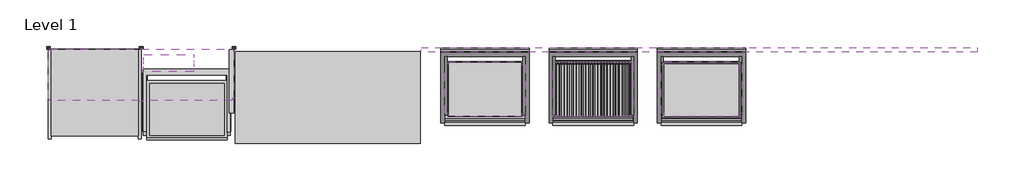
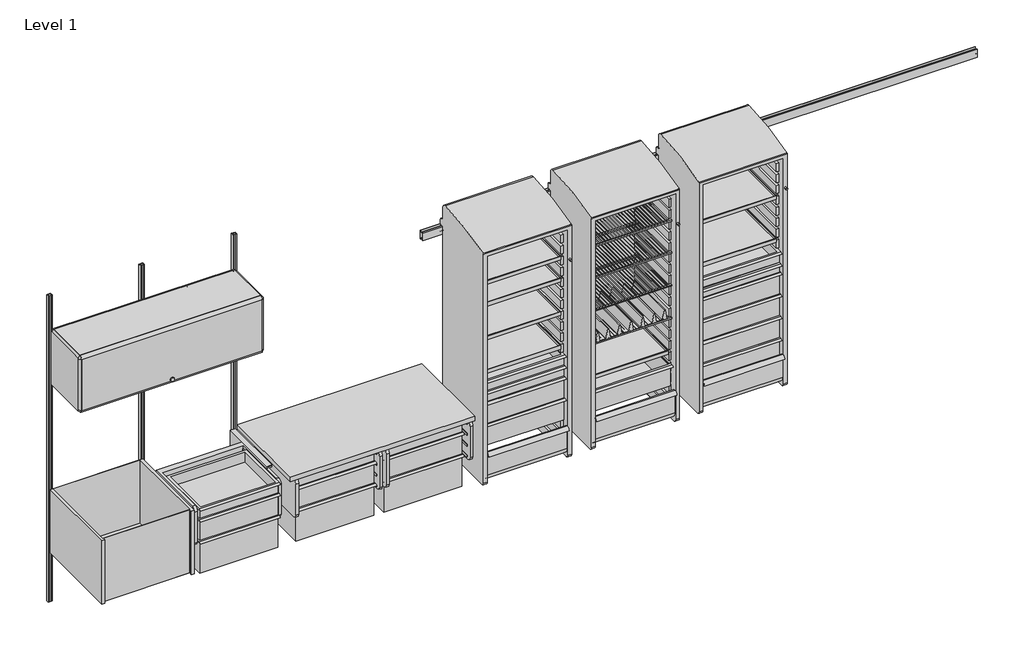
# One storey, incomplete: 46 furniture elements, 1 light fixture.
"""IFC4 building model written with IfcOpenShell, lengths in millimetres."""

from ifc_helpers import new_model, si_unit, origin, place, context, project, spatial, transform, mapped, element, save
from components import furniture_96cbcaf7, furniture_f7d7e143, furniture_a25c7143, furniture_16c4bec0, furniture_ac9ddba1, furniture_27da73ad, furniture_f6e26599, furniture_6a9bea8c, furniture_0eaea0f9, furniture_83f72333, furniture_955c4189, furniture_14b667b5, furniture_1979b876, furniture_60ab3520, furniture_66465d9f, furniture_2bbb03d3, furniture_ea425779, a_3_c1a7feba, a_3_2d132fd5, a_3_34f6b35d, a_3_9c7b58b7, a_3_f6285bb9, b_6_334becb9, b_6_49bc5308, b_6_eadec2fb, b_6_fe23bc84, b_6_f31ca194, b_6_3d1a9f76, b_6_e21043c8, c_9_16105775, c_9_c2c7ca91, lam_24d_48w_f610a9d3, standard_144w_a9847ba4, light_fixture_c49e82c0

model = new_model("IFC4")

# Units and contexts
model_context = context("Model", 3, world=origin())
ifc_project = project(units=[si_unit("LENGTHUNIT", "METRE", prefix="MILLI")], contexts=[model_context])

# Site, building, storey
site = spatial("IfcSite", under=ifc_project)
building = spatial("IfcBuilding", under=site)
storey = spatial("IfcBuildingStorey", under=building, Name="Level 1", Elevation=0.0)

# Furniture
placement = place(None, origin())
furniture_shape = furniture_96cbcaf7(model_context)
element("IfcFurniture", 1, ObjectType="HermanMiller_ActionOffice_A3352_B-StyleFlipperDoorUnit : 15 1/2\"H x 13\"D x 48\"W", at=placement, inside=storey, context=model_context, shape_type="MappedRepresentation", body=[
    mapped(furniture_shape, transform((609.6, -200.025, 0.0), x_axis=(1.0, 0.0, 0.0), y_axis=(0.0, 1.0, 0.0), z_axis=(0.0, 0.0, 1.0))),
])
furniture_2_shape = furniture_f7d7e143(model_context)
element("IfcFurniture", 2, ObjectType="HermanMiller_CoStruc_CO205_CFrame : 10\"H x 17\"D x 22\"W", at=placement, inside=storey, context=model_context, shape_type="MappedRepresentation", body=[
    mapped(furniture_2_shape, transform((814.1511551, -230.7049397, 0.0), x_axis=(1.0, 0.0, 0.0), y_axis=(0.0, 1.0, 0.0), z_axis=(0.0, 0.0, 1.0))),
])
element("IfcFurniture", 3, ObjectType="HermanMiller_CoStruc_CO205_CFrame : 10\"H x 17\"D x 22\"W", at=placement, inside=storey, context=model_context, shape_type="MappedRepresentation", body=[
    mapped(furniture_2_shape, transform((1454.0889151, -281.4338197, 0.0), x_axis=(1.0, 0.0, 0.0), y_axis=(0.0, 1.0, 0.0), z_axis=(0.0, 0.0, 1.0))),
])
element("IfcFurniture", 4, ObjectType="HermanMiller_CoStruc_CO205_CFrame : 10\"H x 17\"D x 22\"W", at=placement, inside=storey, context=model_context, shape_type="MappedRepresentation", body=[
    mapped(furniture_2_shape, transform((2050.5393351, -281.4338197, 0.0), x_axis=(1.0, 0.0, 0.0), y_axis=(0.0, 1.0, 0.0), z_axis=(0.0, 0.0, 1.0))),
])
furniture_3_shape = furniture_a25c7143(model_context)
element("IfcFurniture", 5, ObjectType="HermanMiller_CoStruc_CO266_GripperPackage : 15\"D x 22-1/2\"W", at=placement, inside=storey, context=model_context, shape_type="MappedRepresentation", body=[
    mapped(furniture_3_shape, transform((909.2692, -174.70882, 0.0), x_axis=(1.0, 0.0, 0.0), y_axis=(0.0, 1.0, 0.0), z_axis=(0.0, 0.0, 1.0))),
])
furniture_4_shape = furniture_16c4bec0(model_context)
element("IfcFurniture", 6, ObjectType="HermanMiller_CoStruc_CO203_CTrayShelf : 14\"D x 20\"W", at=placement, inside=storey, context=model_context, shape_type="MappedRepresentation", body=[
    mapped(furniture_4_shape, transform((2869.41006, -280.86558, 0.0), x_axis=(1.0, 0.0, 0.0), y_axis=(0.0, 1.0, 0.0), z_axis=(0.0, 0.0, 1.0))),
])
furniture_5_shape = furniture_ac9ddba1(model_context)
element("IfcFurniture", 7, ObjectType="HermanMiller_CoStruc_CO561_LockerWithTambourDoor : 66\"H x 20\"D x 22\"W Wlock", at=placement, inside=storey, context=model_context, shape_type="MappedRepresentation", body=[
    mapped(furniture_5_shape, transform((2869.35164, -257.78206, 0.0), x_axis=(1.0, 0.0, 0.0), y_axis=(0.0, 1.0, 0.0), z_axis=(0.0, 0.0, 1.0))),
])
element("IfcFurniture", 8, ObjectType="HermanMiller_CoStruc_CO561_LockerWithTambourDoor : 66\"H x 20\"D x 22\"W Wlock", at=placement, inside=storey, context=model_context, shape_type="MappedRepresentation", body=[
    mapped(furniture_5_shape, transform((3580.55164, -257.78206, 0.0), x_axis=(1.0, 0.0, 0.0), y_axis=(0.0, 1.0, 0.0), z_axis=(0.0, 0.0, 1.0))),
])
element("IfcFurniture", 9, ObjectType="HermanMiller_CoStruc_CO561_LockerWithTambourDoor : 66\"H x 20\"D x 22\"W Wlock", at=placement, inside=storey, context=model_context, shape_type="MappedRepresentation", body=[
    mapped(furniture_5_shape, transform((4291.75164, -257.78206, 0.0), x_axis=(1.0, 0.0, 0.0), y_axis=(0.0, 1.0, 0.0), z_axis=(0.0, 0.0, 1.0))),
])
furniture_6_shape = furniture_27da73ad(model_context)
element("IfcFurniture", 10, ObjectType="HermanMiller_CoStruc_CO242_Subdivider Vane : 2 5/8\"Hx13 3/4\"D x 18 1/2\"W", at=placement, inside=storey, context=model_context, shape_type="MappedRepresentation", body=[
    mapped(furniture_6_shape, transform((3577.1391117, -290.00958, 0.0), x_axis=(1.0, 0.0, 0.0), y_axis=(0.0, 1.0, 0.0), z_axis=(0.0, 0.0, 1.0))),
])
furniture_7_shape = furniture_f6e26599(model_context)
element("IfcFurniture", 11, ObjectType="HermanMiller_CoStruc_CO203_CTrayShelf : 14\"D x 20\"W", at=placement, inside=storey, context=model_context, shape_type="MappedRepresentation", body=[
    mapped(furniture_7_shape, transform((2869.41006, -280.86558, 0.0), x_axis=(1.0, 0.0, 0.0), y_axis=(0.0, 1.0, 0.0), z_axis=(0.0, 0.0, 1.0))),
])
furniture_8_shape = furniture_6a9bea8c(model_context)
element("IfcFurniture", 12, ObjectType="HermanMiller_CoStruc_CO203_CTrayShelf : 14\"D x 20\"W", at=placement, inside=storey, context=model_context, shape_type="MappedRepresentation", body=[
    mapped(furniture_8_shape, transform((2869.41006, -280.86558, 0.0), x_axis=(1.0, 0.0, 0.0), y_axis=(0.0, 1.0, 0.0), z_axis=(0.0, 0.0, 1.0))),
])
furniture_9_shape = furniture_0eaea0f9(model_context)
element("IfcFurniture", 13, ObjectType="HermanMiller_CoStruc_CO203_CTrayShelf : 14\"D x 20\"W", at=placement, inside=storey, context=model_context, shape_type="MappedRepresentation", body=[
    mapped(furniture_9_shape, transform((2869.41006, -280.86558, 0.0), x_axis=(1.0, 0.0, 0.0), y_axis=(0.0, 1.0, 0.0), z_axis=(0.0, 0.0, 1.0))),
])
furniture_10_shape = furniture_83f72333(model_context)
element("IfcFurniture", 14, ObjectType="HermanMiller_CoStruc_CO203_CTrayShelf : 14\"D x 20\"W", at=placement, inside=storey, context=model_context, shape_type="MappedRepresentation", body=[
    mapped(furniture_10_shape, transform((3578.79396, -279.27808, 0.0), x_axis=(-1.0, 0.0, 0.0), y_axis=(0.0, -1.0, 0.0), z_axis=(0.0, 0.0, 1.0))),
])
furniture_11_shape = furniture_955c4189(model_context)
element("IfcFurniture", 15, ObjectType="HermanMiller_CoStruc_CO252_CWireShelf : 14D x 20W", at=placement, inside=storey, context=model_context, shape_type="MappedRepresentation", body=[
    mapped(furniture_11_shape, transform((3580.61006, -280.86558, 0.0), x_axis=(1.0, 0.0, 0.0), y_axis=(0.0, 1.0, 0.0), z_axis=(0.0, 0.0, 1.0))),
])
furniture_12_shape = furniture_14b667b5(model_context)
element("IfcFurniture", 16, ObjectType="HermanMiller_CoStruc_CO252_CWireShelf : 14D x 20W", at=placement, inside=storey, context=model_context, shape_type="MappedRepresentation", body=[
    mapped(furniture_12_shape, transform((3580.61006, -280.86558, 0.0), x_axis=(1.0, 0.0, 0.0), y_axis=(0.0, 1.0, 0.0), z_axis=(0.0, 0.0, 1.0))),
])
element("IfcFurniture", 17, ObjectType="HermanMiller_CoStruc_CO252_CWireShelf : 14D x 20W", at=placement, inside=storey, context=model_context, shape_type="MappedRepresentation", body=[
    mapped(furniture_12_shape, transform((3580.61006, -280.86558, 228.6), x_axis=(1.0, 0.0, 0.0), y_axis=(0.0, 1.0, 0.0), z_axis=(0.0, 0.0, 1.0))),
])
furniture_13_shape = furniture_1979b876(model_context)
element("IfcFurniture", 18, ObjectType="HermanMiller_CoStruc_CO252_CWireShelf : 14D x 20W", at=placement, inside=storey, context=model_context, shape_type="MappedRepresentation", body=[
    mapped(furniture_13_shape, transform((3580.61006, -280.86558, 0.0), x_axis=(1.0, 0.0, 0.0), y_axis=(0.0, 1.0, 0.0), z_axis=(0.0, 0.0, 1.0))),
])
furniture_14_shape = furniture_60ab3520(model_context)
element("IfcFurniture", 19, ObjectType="HermanMiller_CoStruc_CO203_CTrayShelf : 14\"D x 20\"W", at=placement, inside=storey, context=model_context, shape_type="MappedRepresentation", body=[
    mapped(furniture_14_shape, transform((4291.81006, -280.86558, 0.0), x_axis=(1.0, 0.0, 0.0), y_axis=(0.0, 1.0, 0.0), z_axis=(0.0, 0.0, 1.0))),
])
furniture_15_shape = furniture_66465d9f(model_context)
element("IfcFurniture", 20, ObjectType="HermanMiller_CoStruc_CO203_CTrayShelf : 14\"D x 20\"W", at=placement, inside=storey, context=model_context, shape_type="MappedRepresentation", body=[
    mapped(furniture_15_shape, transform((4291.81006, -280.86558, 0.0), x_axis=(1.0, 0.0, 0.0), y_axis=(0.0, 1.0, 0.0), z_axis=(0.0, 0.0, 1.0))),
])
furniture_16_shape = furniture_2bbb03d3(model_context)
element("IfcFurniture", 21, ObjectType="HermanMiller_CoStruc_C2513_SinkUnitForStorage : 19\"H x 24\"D x 48\"W", at=placement, inside=storey, context=model_context, shape_type="MappedRepresentation", body=[
    mapped(furniture_16_shape, transform((304.8, -187.325, 0.0), x_axis=(1.0, 0.0, 0.0), y_axis=(0.0, 1.0, 0.0), z_axis=(0.0, 0.0, 1.0))),
])
furniture_17_shape = furniture_ea425779(model_context)
element("IfcFurniture", 22, ObjectType="HermanMiller_ActionOffice_AO213_WallStrip : 84\"H", at=placement, inside=storey, context=model_context, shape_type="MappedRepresentation", body=[
    mapped(furniture_17_shape, transform((609.6, 0.0, 0.0), x_axis=(1.0, 0.0, 0.0), y_axis=(0.0, 1.0, 0.0), z_axis=(0.0, 0.0, 1.0))),
])
element("IfcFurniture", 23, ObjectType="HermanMiller_ActionOffice_AO213_WallStrip : 84\"H", at=placement, inside=storey, context=model_context, shape_type="MappedRepresentation", body=[
    mapped(furniture_17_shape, transform((1219.2, 0.0, 0.0), x_axis=(1.0, 0.0, 0.0), y_axis=(0.0, 1.0, 0.0), z_axis=(0.0, 0.0, 1.0))),
])
element("IfcFurniture", 24, ObjectType="HermanMiller_ActionOffice_AO213_WallStrip : 84\"H", at=placement, inside=storey, context=model_context, shape_type="MappedRepresentation", body=[
    mapped(furniture_17_shape, transform((0.0, 0.0, 0.0), x_axis=(1.0, 0.0, 0.0), y_axis=(0.0, 1.0, 0.0), z_axis=(0.0, 0.0, 1.0))),
])
a_3_shape = a_3_c1a7feba(model_context)
element("IfcFurniture", 25, ObjectType="HermanMiller_CoStruc_CO207_Drawer : A - 3", at=placement, inside=storey, context=model_context, shape_type="MappedRepresentation", body=[
    mapped(a_3_shape, transform((2123.7333317, -419.20922, 0.0), x_axis=(1.0, 0.0, 0.0), y_axis=(0.0, 1.0, 0.0), z_axis=(0.0, 0.0, 1.0))),
])
element("IfcFurniture", 26, ObjectType="HermanMiller_CoStruc_CO207_Drawer : A - 3", at=placement, inside=storey, context=model_context, shape_type="MappedRepresentation", body=[
    mapped(a_3_shape, transform((1545.8833317, -419.20922, 0.0), x_axis=(1.0, 0.0, 0.0), y_axis=(0.0, 1.0, 0.0), z_axis=(0.0, 0.0, 1.0))),
])
element("IfcFurniture", 27, ObjectType="HermanMiller_CoStruc_CO207_Drawer : A - 3", at=placement, inside=storey, context=model_context, shape_type="MappedRepresentation", body=[
    mapped(a_3_shape, transform((910.7893517, -419.20922, 0.0), x_axis=(1.0, 0.0, 0.0), y_axis=(0.0, 1.0, 0.0), z_axis=(0.0, 0.0, 1.0))),
])
a_3_2_shape = a_3_2d132fd5(model_context)
element("IfcFurniture", 28, ObjectType="HermanMiller_CoStruc_CO207_Drawer : A - 3", at=placement, inside=storey, context=model_context, shape_type="MappedRepresentation", body=[
    mapped(a_3_2_shape, transform((2869.3427117, -293.56558, 0.0), x_axis=(1.0, 0.0, 0.0), y_axis=(0.0, 1.0, 0.0), z_axis=(0.0, 0.0, 1.0))),
])
a_3_3_shape = a_3_34f6b35d(model_context)
element("IfcFurniture", 29, ObjectType="HermanMiller_CoStruc_CO207_Drawer : A - 3", at=placement, inside=storey, context=model_context, shape_type="MappedRepresentation", body=[
    mapped(a_3_3_shape, transform((2869.3427117, -293.56558, 0.0), x_axis=(1.0, 0.0, 0.0), y_axis=(0.0, 1.0, 0.0), z_axis=(0.0, 0.0, 1.0))),
])
a_3_4_shape = a_3_9c7b58b7(model_context)
element("IfcFurniture", 30, ObjectType="HermanMiller_CoStruc_CO207_Drawer : A - 3", at=placement, inside=storey, context=model_context, shape_type="MappedRepresentation", body=[
    mapped(a_3_4_shape, transform((4291.7427117, -293.56558, 0.0), x_axis=(1.0, 0.0, 0.0), y_axis=(0.0, 1.0, 0.0), z_axis=(0.0, 0.0, 1.0))),
])
a_3_5_shape = a_3_f6285bb9(model_context)
element("IfcFurniture", 31, ObjectType="HermanMiller_CoStruc_CO207_Drawer : A - 3", at=placement, inside=storey, context=model_context, shape_type="MappedRepresentation", body=[
    mapped(a_3_5_shape, transform((4291.7427117, -293.56558, 0.0), x_axis=(1.0, 0.0, 0.0), y_axis=(0.0, 1.0, 0.0), z_axis=(0.0, 0.0, 1.0))),
])
b_6_shape = b_6_334becb9(model_context)
element("IfcFurniture", 32, ObjectType="HermanMiller_CoStruc_CO207_Drawer : B - 6", at=placement, inside=storey, context=model_context, shape_type="MappedRepresentation", body=[
    mapped(b_6_shape, transform((2123.7333317, -419.20922, 0.0), x_axis=(1.0, 0.0, 0.0), y_axis=(0.0, 1.0, 0.0), z_axis=(0.0, 0.0, 1.0))),
])
element("IfcFurniture", 33, ObjectType="HermanMiller_CoStruc_CO207_Drawer : B - 6", at=placement, inside=storey, context=model_context, shape_type="MappedRepresentation", body=[
    mapped(b_6_shape, transform((1545.8833317, -419.20922, 0.0), x_axis=(1.0, 0.0, 0.0), y_axis=(0.0, 1.0, 0.0), z_axis=(0.0, 0.0, 1.0))),
])
element("IfcFurniture", 34, ObjectType="HermanMiller_CoStruc_CO207_Drawer : B - 6", at=placement, inside=storey, context=model_context, shape_type="MappedRepresentation", body=[
    mapped(b_6_shape, transform((910.7893517, -419.20922, 0.0), x_axis=(1.0, 0.0, 0.0), y_axis=(0.0, 1.0, 0.0), z_axis=(0.0, 0.0, 1.0))),
])
b_6_2_shape = b_6_49bc5308(model_context)
element("IfcFurniture", 35, ObjectType="HermanMiller_CoStruc_CO207_Drawer : B - 6", at=placement, inside=storey, context=model_context, shape_type="MappedRepresentation", body=[
    mapped(b_6_2_shape, transform((2869.3427117, -293.56558, 0.0), x_axis=(1.0, 0.0, 0.0), y_axis=(0.0, 1.0, 0.0), z_axis=(0.0, 0.0, 1.0))),
])
b_6_3_shape = b_6_eadec2fb(model_context)
element("IfcFurniture", 36, ObjectType="HermanMiller_CoStruc_CO207_Drawer : B - 6", at=placement, inside=storey, context=model_context, shape_type="MappedRepresentation", body=[
    mapped(b_6_3_shape, transform((2869.3427117, -293.56558, 0.0), x_axis=(1.0, 0.0, 0.0), y_axis=(0.0, 1.0, 0.0), z_axis=(0.0, 0.0, 1.0))),
])
b_6_4_shape = b_6_fe23bc84(model_context)
element("IfcFurniture", 37, ObjectType="HermanMiller_CoStruc_CO207_Drawer : B - 6", at=placement, inside=storey, context=model_context, shape_type="MappedRepresentation", body=[
    mapped(b_6_4_shape, transform((4291.7427117, -293.56558, 0.0), x_axis=(1.0, 0.0, 0.0), y_axis=(0.0, 1.0, 0.0), z_axis=(0.0, 0.0, 1.0))),
])
b_6_5_shape = b_6_f31ca194(model_context)
element("IfcFurniture", 38, ObjectType="HermanMiller_CoStruc_CO207_Drawer : B - 6", at=placement, inside=storey, context=model_context, shape_type="MappedRepresentation", body=[
    mapped(b_6_5_shape, transform((4291.7427117, -293.56558, 0.0), x_axis=(1.0, 0.0, 0.0), y_axis=(0.0, 1.0, 0.0), z_axis=(0.0, 0.0, 1.0))),
])
b_6_6_shape = b_6_3d1a9f76(model_context)
element("IfcFurniture", 39, ObjectType="HermanMiller_CoStruc_CO207_Drawer : B - 6", at=placement, inside=storey, context=model_context, shape_type="MappedRepresentation", body=[
    mapped(b_6_6_shape, transform((3577.1391117, -288.82848, 0.0), x_axis=(1.0, 0.0, 0.0), y_axis=(0.0, 1.0, 0.0), z_axis=(0.0, 0.0, 1.0))),
])
b_6_7_shape = b_6_e21043c8(model_context)
element("IfcFurniture", 40, ObjectType="HermanMiller_CoStruc_CO207_Drawer : B - 6", at=placement, inside=storey, context=model_context, shape_type="MappedRepresentation", body=[
    mapped(b_6_7_shape, transform((4291.7427117, -293.56558, 0.0), x_axis=(1.0, 0.0, 0.0), y_axis=(0.0, 1.0, 0.0), z_axis=(0.0, 0.0, 1.0))),
])
c_9_shape = c_9_16105775(model_context)
element("IfcFurniture", 41, ObjectType="HermanMiller_CoStruc_CO207_Drawer : C - 9", at=placement, inside=storey, context=model_context, shape_type="MappedRepresentation", body=[
    mapped(c_9_shape, transform((2123.7333317, -419.20922, 0.0), x_axis=(1.0, 0.0, 0.0), y_axis=(0.0, 1.0, 0.0), z_axis=(0.0, 0.0, 1.0))),
])
element("IfcFurniture", 42, ObjectType="HermanMiller_CoStruc_CO207_Drawer : C - 9", at=placement, inside=storey, context=model_context, shape_type="MappedRepresentation", body=[
    mapped(c_9_shape, transform((1545.8833317, -419.20922, 0.0), x_axis=(1.0, 0.0, 0.0), y_axis=(0.0, 1.0, 0.0), z_axis=(0.0, 0.0, 1.0))),
])
element("IfcFurniture", 43, ObjectType="HermanMiller_CoStruc_CO207_Drawer : C - 9", at=placement, inside=storey, context=model_context, shape_type="MappedRepresentation", body=[
    mapped(c_9_shape, transform((910.7893517, -419.20922, 0.0), x_axis=(1.0, 0.0, 0.0), y_axis=(0.0, 1.0, 0.0), z_axis=(0.0, 0.0, 1.0))),
])
c_9_2_shape = c_9_c2c7ca91(model_context)
element("IfcFurniture", 44, ObjectType="HermanMiller_CoStruc_CO207_Drawer : C - 9", at=placement, inside=storey, context=model_context, shape_type="MappedRepresentation", body=[
    mapped(c_9_2_shape, transform((4291.7427117, -293.56558, 0.0), x_axis=(1.0, 0.0, 0.0), y_axis=(0.0, 1.0, 0.0), z_axis=(0.0, 0.0, 1.0))),
])
lam_24d_48w_shape = lam_24d_48w_f610a9d3(model_context)
element("IfcFurniture", 45, ObjectType="HermanMiller_CoStruc_C4700_RectangularWorkTableSurface : Lam 24D 48W", at=placement, inside=storey, context=model_context, shape_type="MappedRepresentation", body=[
    mapped(lam_24d_48w_shape, transform((1223.8355, -29.6926, 0.0), x_axis=(1.0, 0.0, 0.0), y_axis=(0.0, 1.0, 0.0), z_axis=(0.0, 0.0, 1.0))),
])
standard_144w_shape = standard_144w_a9847ba4(model_context)
element("IfcFurniture", 46, ObjectType="HermanMiller_CoStruc_CO282_StandardRail : Standard 144W", at=placement, inside=storey, context=model_context, shape_type="MappedRepresentation", body=[
    mapped(standard_144w_shape, transform((4344.7846925, -9.525, 0.0), x_axis=(1.0, 0.0, 0.0), y_axis=(0.0, 1.0, 0.0), z_axis=(0.0, 0.0, 1.0))),
])

# Light fixture
light_fixture_shape = light_fixture_c49e82c0(model_context)
element("IfcLightFixture", 47, ObjectType="HermanMiller_SupplementalProducts_G6136_UtilityTaskLight : AO Etho Canvas 24W", at=placement, inside=storey, context=model_context, shape_type="MappedRepresentation", body=[
    mapped(light_fixture_shape, transform((790.829, -111.125, 0.0), x_axis=(1.0, 0.0, 0.0), y_axis=(0.0, 1.0, 0.0), z_axis=(0.0, 0.0, 1.0))),
])

save(model, "model.ifc")
